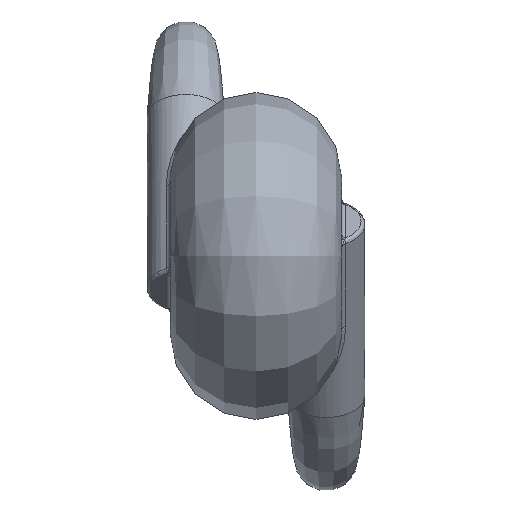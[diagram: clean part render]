
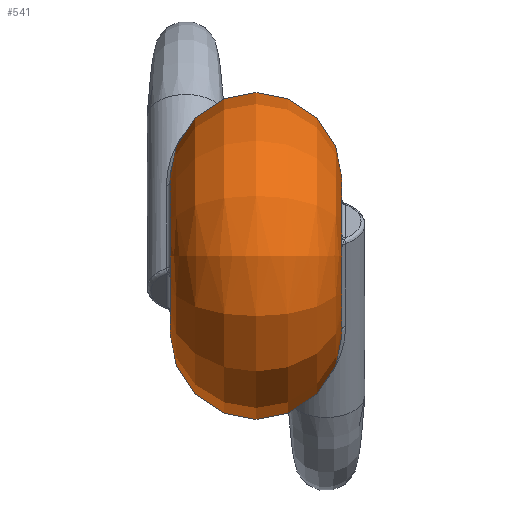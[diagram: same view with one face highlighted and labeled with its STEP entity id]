
A CAD part, left-side view. The second image highlights one B-rep face of the part: STEP entity #541.
In plain terms, the highlighted free-form (B-spline) face has degree [2, 2] with [5, 9] control points.
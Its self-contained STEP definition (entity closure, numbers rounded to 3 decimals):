
#14=(
BOUNDED_CURVE()
B_SPLINE_CURVE(2,(#1706,#1707,#1708,#1709,#1710),.UNSPECIFIED.,.F.,.F.)
B_SPLINE_CURVE_WITH_KNOTS((3,2,3),(-1.571,0.,1.571),
 .UNSPECIFIED.)
CURVE()
GEOMETRIC_REPRESENTATION_ITEM()
RATIONAL_B_SPLINE_CURVE((1.,0.707,1.,0.707,1.))
REPRESENTATION_ITEM('')
);
#15=(
BOUNDED_SURFACE()
B_SPLINE_SURFACE(2,2,((#1660,#1661,#1662,#1663,#1664,#1665,#1666,#1667,
#1668),(#1669,#1670,#1671,#1672,#1673,#1674,#1675,#1676,#1677),(#1678,#1679,
#1680,#1681,#1682,#1683,#1684,#1685,#1686),(#1687,#1688,#1689,#1690,#1691,
#1692,#1693,#1694,#1695),(#1696,#1697,#1698,#1699,#1700,#1701,#1702,#1703,
#1704)),.UNSPECIFIED.,.F.,.T.,.F.)
B_SPLINE_SURFACE_WITH_KNOTS((3,2,3),(3,2,2,2,3),(-1.571,0.,1.571),
(-3.142,-1.571,0.,1.571,3.142),
 .UNSPECIFIED.)
GEOMETRIC_REPRESENTATION_ITEM()
RATIONAL_B_SPLINE_SURFACE(((1.,0.707,1.,0.707,1.,
0.707,1.,0.707,1.),(0.707,0.5,0.707,
0.5,0.707,0.5,0.707,0.5,0.707),(1.,
0.707,1.,0.707,1.,0.707,1.,0.707,
1.),(0.707,0.5,0.707,0.5,
0.707,0.5,0.707,0.5,
0.707),(1.,0.707,1.,0.707,1.,0.707,
1.,0.707,1.)))
REPRESENTATION_ITEM('')
SURFACE()
);
#78=B_SPLINE_CURVE_WITH_KNOTS('',3,(#1642,#1643,#1644,#1645,#1646,#1647,
#1648,#1649,#1650,#1651,#1652,#1653),.UNSPECIFIED.,.F.,.F.,(4,1,1,1,1,1,
1,1,1,4),(-0.813,-0.697,-0.581,-0.465,
-0.406,-0.348,-0.29,-0.232,
-0.116,0.),.UNSPECIFIED.);
#79=B_SPLINE_CURVE_WITH_KNOTS('',3,(#1714,#1715,#1716,#1717,#1718,#1719,
#1720,#1721,#1722,#1723,#1724,#1725,#1726,#1727,#1728,#1729,#1730),
 .UNSPECIFIED.,.F.,.F.,(4,1,1,1,1,1,1,1,1,1,1,1,1,1,4),(-0.813,
-0.755,-0.697,-0.581,-0.523,
-0.465,-0.406,-0.348,-0.334,
-0.29,-0.232,-0.174,-0.116,
-0.058,0.),.UNSPECIFIED.);
#126=FACE_OUTER_BOUND('',#167,.T.);
#167=EDGE_LOOP('',(#432,#433,#434,#435,#436,#437,#438,#439));
#204=CIRCLE('',#595,1.995);
#205=CIRCLE('',#596,1.995);
#206=CIRCLE('',#597,1.995);
#207=CIRCLE('',#598,1.995);
#246=VERTEX_POINT('',#1577);
#247=VERTEX_POINT('',#1640);
#248=VERTEX_POINT('',#1657);
#249=VERTEX_POINT('',#1705);
#250=VERTEX_POINT('',#1711);
#251=VERTEX_POINT('',#1713);
#311=EDGE_CURVE('',#247,#246,#78,.T.);
#313=EDGE_CURVE('',#247,#248,#204,.T.);
#314=EDGE_CURVE('',#248,#246,#205,.T.);
#315=EDGE_CURVE('',#248,#249,#14,.T.);
#316=EDGE_CURVE('',#250,#249,#206,.T.);
#317=EDGE_CURVE('',#250,#251,#79,.T.);
#318=EDGE_CURVE('',#249,#251,#207,.T.);
#432=ORIENTED_EDGE('',*,*,#311,.T.);
#433=ORIENTED_EDGE('',*,*,#314,.F.);
#434=ORIENTED_EDGE('',*,*,#315,.T.);
#435=ORIENTED_EDGE('',*,*,#316,.F.);
#436=ORIENTED_EDGE('',*,*,#317,.T.);
#437=ORIENTED_EDGE('',*,*,#318,.F.);
#438=ORIENTED_EDGE('',*,*,#315,.F.);
#439=ORIENTED_EDGE('',*,*,#313,.F.);
#541=ADVANCED_FACE('',(#126),#15,.T.);
#595=AXIS2_PLACEMENT_3D('',#1658,#708,#709);
#596=AXIS2_PLACEMENT_3D('',#1659,#710,#711);
#597=AXIS2_PLACEMENT_3D('',#1712,#712,#713);
#598=AXIS2_PLACEMENT_3D('',#1731,#714,#715);
#708=DIRECTION('center_axis',(0.,1.,0.));
#709=DIRECTION('ref_axis',(-1.,0.,0.));
#710=DIRECTION('center_axis',(0.,1.,0.));
#711=DIRECTION('ref_axis',(-1.,0.,0.));
#712=DIRECTION('center_axis',(0.,-1.,0.));
#713=DIRECTION('ref_axis',(-1.,0.,0.));
#714=DIRECTION('center_axis',(0.,-1.,0.));
#715=DIRECTION('ref_axis',(-1.,0.,0.));
#1577=CARTESIAN_POINT('',(0.593,3.6,1.905));
#1640=CARTESIAN_POINT('',(1.977,3.6,0.268));
#1642=CARTESIAN_POINT('Ctrl Pts',(1.977,3.6,0.268));
#1643=CARTESIAN_POINT('Ctrl Pts',(2.177,3.6,0.582));
#1644=CARTESIAN_POINT('Ctrl Pts',(2.637,3.504,1.148));
#1645=CARTESIAN_POINT('Ctrl Pts',(3.274,2.884,1.802));
#1646=CARTESIAN_POINT('Ctrl Pts',(3.27,2.184,2.464));
#1647=CARTESIAN_POINT('Ctrl Pts',(2.833,1.913,3.034));
#1648=CARTESIAN_POINT('Ctrl Pts',(2.381,1.968,3.385));
#1649=CARTESIAN_POINT('Ctrl Pts',(1.927,2.268,3.55));
#1650=CARTESIAN_POINT('Ctrl Pts',(1.449,2.826,3.444));
#1651=CARTESIAN_POINT('Ctrl Pts',(1.109,3.437,2.835));
#1652=CARTESIAN_POINT('Ctrl Pts',(0.806,3.6,2.193));
#1653=CARTESIAN_POINT('Ctrl Pts',(0.593,3.6,1.905));
#1657=CARTESIAN_POINT('',(-1.995,3.6,0.));
#1658=CARTESIAN_POINT('Origin',(0.,3.6,0.));
#1659=CARTESIAN_POINT('Origin',(0.,3.6,0.));
#1660=CARTESIAN_POINT('Ctrl Pts',(-1.995,-0.81,0.));
#1661=CARTESIAN_POINT('Ctrl Pts',(-1.995,-0.81,-1.995));
#1662=CARTESIAN_POINT('Ctrl Pts',(0.,-0.81,-1.995));
#1663=CARTESIAN_POINT('Ctrl Pts',(1.995,-0.81,-1.995));
#1664=CARTESIAN_POINT('Ctrl Pts',(1.995,-0.81,0.));
#1665=CARTESIAN_POINT('Ctrl Pts',(1.995,-0.81,1.995));
#1666=CARTESIAN_POINT('Ctrl Pts',(0.,-0.81,1.995));
#1667=CARTESIAN_POINT('Ctrl Pts',(-1.995,-0.81,1.995));
#1668=CARTESIAN_POINT('Ctrl Pts',(-1.995,-0.81,0.));
#1669=CARTESIAN_POINT('Ctrl Pts',(-4.2,-0.81,0.));
#1670=CARTESIAN_POINT('Ctrl Pts',(-4.2,-0.81,-4.2));
#1671=CARTESIAN_POINT('Ctrl Pts',(0.,-0.81,-4.2));
#1672=CARTESIAN_POINT('Ctrl Pts',(4.2,-0.81,-4.2));
#1673=CARTESIAN_POINT('Ctrl Pts',(4.2,-0.81,0.));
#1674=CARTESIAN_POINT('Ctrl Pts',(4.2,-0.81,4.2));
#1675=CARTESIAN_POINT('Ctrl Pts',(0.,-0.81,4.2));
#1676=CARTESIAN_POINT('Ctrl Pts',(-4.2,-0.81,4.2));
#1677=CARTESIAN_POINT('Ctrl Pts',(-4.2,-0.81,0.));
#1678=CARTESIAN_POINT('Ctrl Pts',(-4.2,1.395,0.));
#1679=CARTESIAN_POINT('Ctrl Pts',(-4.2,1.395,-4.2));
#1680=CARTESIAN_POINT('Ctrl Pts',(0.,1.395,-4.2));
#1681=CARTESIAN_POINT('Ctrl Pts',(4.2,1.395,-4.2));
#1682=CARTESIAN_POINT('Ctrl Pts',(4.2,1.395,0.));
#1683=CARTESIAN_POINT('Ctrl Pts',(4.2,1.395,4.2));
#1684=CARTESIAN_POINT('Ctrl Pts',(0.,1.395,4.2));
#1685=CARTESIAN_POINT('Ctrl Pts',(-4.2,1.395,4.2));
#1686=CARTESIAN_POINT('Ctrl Pts',(-4.2,1.395,0.));
#1687=CARTESIAN_POINT('Ctrl Pts',(-4.2,3.6,0.));
#1688=CARTESIAN_POINT('Ctrl Pts',(-4.2,3.6,-4.2));
#1689=CARTESIAN_POINT('Ctrl Pts',(0.,3.6,-4.2));
#1690=CARTESIAN_POINT('Ctrl Pts',(4.2,3.6,-4.2));
#1691=CARTESIAN_POINT('Ctrl Pts',(4.2,3.6,0.));
#1692=CARTESIAN_POINT('Ctrl Pts',(4.2,3.6,4.2));
#1693=CARTESIAN_POINT('Ctrl Pts',(0.,3.6,4.2));
#1694=CARTESIAN_POINT('Ctrl Pts',(-4.2,3.6,4.2));
#1695=CARTESIAN_POINT('Ctrl Pts',(-4.2,3.6,0.));
#1696=CARTESIAN_POINT('Ctrl Pts',(-1.995,3.6,0.));
#1697=CARTESIAN_POINT('Ctrl Pts',(-1.995,3.6,-1.995));
#1698=CARTESIAN_POINT('Ctrl Pts',(0.,3.6,-1.995));
#1699=CARTESIAN_POINT('Ctrl Pts',(1.995,3.6,-1.995));
#1700=CARTESIAN_POINT('Ctrl Pts',(1.995,3.6,0.));
#1701=CARTESIAN_POINT('Ctrl Pts',(1.995,3.6,1.995));
#1702=CARTESIAN_POINT('Ctrl Pts',(0.,3.6,1.995));
#1703=CARTESIAN_POINT('Ctrl Pts',(-1.995,3.6,1.995));
#1704=CARTESIAN_POINT('Ctrl Pts',(-1.995,3.6,0.));
#1705=CARTESIAN_POINT('',(-1.995,-0.81,0.));
#1706=CARTESIAN_POINT('Ctrl Pts',(-1.995,3.6,0.));
#1707=CARTESIAN_POINT('Ctrl Pts',(-4.2,3.6,0.));
#1708=CARTESIAN_POINT('Ctrl Pts',(-4.2,1.395,0.));
#1709=CARTESIAN_POINT('Ctrl Pts',(-4.2,-0.81,0.));
#1710=CARTESIAN_POINT('Ctrl Pts',(-1.995,-0.81,0.));
#1711=CARTESIAN_POINT('',(1.977,-0.81,-0.268));
#1712=CARTESIAN_POINT('Origin',(0.,-0.81,0.));
#1713=CARTESIAN_POINT('',(0.593,-0.81,-1.905));
#1714=CARTESIAN_POINT('Ctrl Pts',(1.977,-0.81,-0.268));
#1715=CARTESIAN_POINT('Ctrl Pts',(2.077,-0.81,-0.425));
#1716=CARTESIAN_POINT('Ctrl Pts',(2.287,-0.789,-0.727));
#1717=CARTESIAN_POINT('Ctrl Pts',(2.749,-0.61,-1.254));
#1718=CARTESIAN_POINT('Ctrl Pts',(3.163,-0.196,-1.696));
#1719=CARTESIAN_POINT('Ctrl Pts',(3.275,0.324,-2.197));
#1720=CARTESIAN_POINT('Ctrl Pts',(3.158,0.676,-2.609));
#1721=CARTESIAN_POINT('Ctrl Pts',(2.834,0.876,-3.033));
#1722=CARTESIAN_POINT('Ctrl Pts',(2.494,0.836,-3.297));
#1723=CARTESIAN_POINT('Ctrl Pts',(2.191,0.698,-3.455));
#1724=CARTESIAN_POINT('Ctrl Pts',(1.897,0.487,-3.543));
#1725=CARTESIAN_POINT('Ctrl Pts',(1.569,0.107,-3.472));
#1726=CARTESIAN_POINT('Ctrl Pts',(1.312,-0.283,-3.2));
#1727=CARTESIAN_POINT('Ctrl Pts',(1.104,-0.584,-2.807));
#1728=CARTESIAN_POINT('Ctrl Pts',(0.887,-0.77,
-2.352));
#1729=CARTESIAN_POINT('Ctrl Pts',(0.699,-0.81,-2.049));
#1730=CARTESIAN_POINT('Ctrl Pts',(0.593,-0.81,-1.905));
#1731=CARTESIAN_POINT('Origin',(0.,-0.81,0.));
